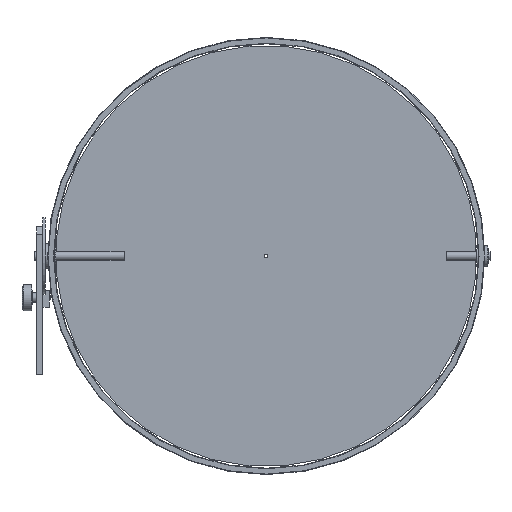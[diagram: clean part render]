
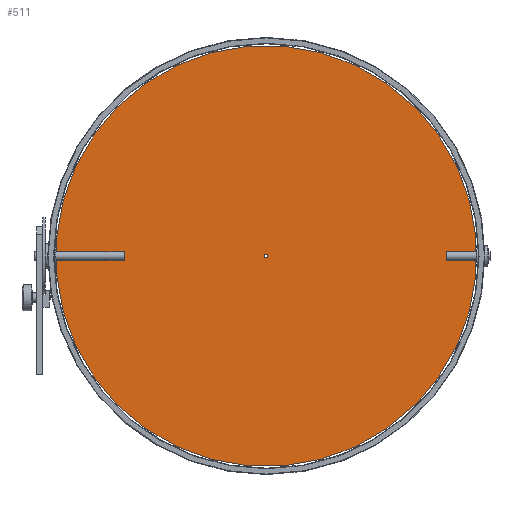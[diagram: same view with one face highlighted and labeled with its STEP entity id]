
A CAD part, left-side view. The second image highlights one B-rep face of the part: STEP entity #511.
In plain terms, the highlighted planar face has unit normal (-1, 0, 0).
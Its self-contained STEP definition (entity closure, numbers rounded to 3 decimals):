
#275=LINE('',#3898,#317);
#280=LINE('',#3912,#322);
#317=VECTOR('',#2438,1.);
#322=VECTOR('',#2451,1.);
#511=ADVANCED_FACE('',(#693,#694,#695,#696,#697,#698,#699,#700,#701),#557,
 .T.);
#557=PLANE('',#2062);
#693=FACE_BOUND('',#899,.T.);
#694=FACE_BOUND('',#900,.T.);
#695=FACE_BOUND('',#901,.T.);
#696=FACE_BOUND('',#902,.T.);
#697=FACE_BOUND('',#903,.T.);
#698=FACE_BOUND('',#904,.T.);
#699=FACE_BOUND('',#905,.T.);
#700=FACE_BOUND('',#906,.T.);
#701=FACE_BOUND('',#907,.T.);
#899=EDGE_LOOP('',(#1295,#1296,#1297,#1298));
#900=EDGE_LOOP('',(#1299));
#901=EDGE_LOOP('',(#1300));
#902=EDGE_LOOP('',(#1301));
#903=EDGE_LOOP('',(#1302));
#904=EDGE_LOOP('',(#1303));
#905=EDGE_LOOP('',(#1304));
#906=EDGE_LOOP('',(#1305));
#907=EDGE_LOOP('',(#1306));
#1295=ORIENTED_EDGE('',*,*,#1720,.T.);
#1296=ORIENTED_EDGE('',*,*,#1697,.T.);
#1297=ORIENTED_EDGE('',*,*,#1701,.T.);
#1298=ORIENTED_EDGE('',*,*,#1704,.T.);
#1299=ORIENTED_EDGE('',*,*,#1717,.T.);
#1300=ORIENTED_EDGE('',*,*,#1715,.F.);
#1301=ORIENTED_EDGE('',*,*,#1713,.F.);
#1302=ORIENTED_EDGE('',*,*,#1711,.F.);
#1303=ORIENTED_EDGE('',*,*,#1709,.F.);
#1304=ORIENTED_EDGE('',*,*,#1707,.F.);
#1305=ORIENTED_EDGE('',*,*,#1705,.F.);
#1306=ORIENTED_EDGE('',*,*,#1721,.T.);
#1492=VERTEX_POINT('',#3897);
#1493=VERTEX_POINT('',#3899);
#1495=VERTEX_POINT('',#3905);
#1497=VERTEX_POINT('',#3911);
#1498=VERTEX_POINT('',#3915);
#1500=VERTEX_POINT('',#3920);
#1502=VERTEX_POINT('',#3925);
#1504=VERTEX_POINT('',#3930);
#1506=VERTEX_POINT('',#3935);
#1508=VERTEX_POINT('',#3940);
#1510=VERTEX_POINT('',#3945);
#1512=VERTEX_POINT('',#3953);
#1697=EDGE_CURVE('',#1493,#1492,#275,.T.);
#1701=EDGE_CURVE('',#1492,#1495,#1837,.T.);
#1704=EDGE_CURVE('',#1495,#1497,#280,.T.);
#1705=EDGE_CURVE('',#1498,#1498,#1838,.T.);
#1707=EDGE_CURVE('',#1500,#1500,#1840,.T.);
#1709=EDGE_CURVE('',#1502,#1502,#1842,.T.);
#1711=EDGE_CURVE('',#1504,#1504,#1844,.T.);
#1713=EDGE_CURVE('',#1506,#1506,#1846,.T.);
#1715=EDGE_CURVE('',#1508,#1508,#1848,.T.);
#1717=EDGE_CURVE('',#1510,#1510,#1850,.T.);
#1720=EDGE_CURVE('',#1497,#1493,#1853,.T.);
#1721=EDGE_CURVE('',#1512,#1512,#1854,.T.);
#1837=CIRCLE('',#2032,496.);
#1838=CIRCLE('',#2035,4.);
#1840=CIRCLE('',#2038,4.);
#1842=CIRCLE('',#2041,4.);
#1844=CIRCLE('',#2044,4.);
#1846=CIRCLE('',#2047,4.);
#1848=CIRCLE('',#2050,4.);
#1850=CIRCLE('',#2053,4.);
#1853=CIRCLE('',#2057,496.);
#1854=CIRCLE('',#2059,4.);
#2032=AXIS2_PLACEMENT_3D('',#3906,#2445,#2446);
#2035=AXIS2_PLACEMENT_3D('',#3914,#2454,#2455);
#2038=AXIS2_PLACEMENT_3D('',#3919,#2460,#2461);
#2041=AXIS2_PLACEMENT_3D('',#3924,#2466,#2467);
#2044=AXIS2_PLACEMENT_3D('',#3929,#2472,#2473);
#2047=AXIS2_PLACEMENT_3D('',#3934,#2478,#2479);
#2050=AXIS2_PLACEMENT_3D('',#3939,#2484,#2485);
#2053=AXIS2_PLACEMENT_3D('',#3944,#2490,#2491);
#2057=AXIS2_PLACEMENT_3D('',#3950,#2498,#2499);
#2059=AXIS2_PLACEMENT_3D('',#3952,#2502,#2503);
#2062=AXIS2_PLACEMENT_3D('',#3957,#2508,#2509);
#2438=DIRECTION('',(0.,0.,1.));
#2445=DIRECTION('',(-1.,0.,0.));
#2446=DIRECTION('',(0.,0.,1.));
#2451=DIRECTION('',(0.,0.,-1.));
#2454=DIRECTION('',(-1.,0.,0.));
#2455=DIRECTION('',(0.,0.,1.));
#2460=DIRECTION('',(-1.,0.,0.));
#2461=DIRECTION('',(0.,0.,1.));
#2466=DIRECTION('',(-1.,0.,0.));
#2467=DIRECTION('',(0.,0.,1.));
#2472=DIRECTION('',(-1.,0.,0.));
#2473=DIRECTION('',(0.,0.,1.));
#2478=DIRECTION('',(-1.,0.,0.));
#2479=DIRECTION('',(0.,0.,1.));
#2484=DIRECTION('',(-1.,0.,0.));
#2485=DIRECTION('',(0.,0.,1.));
#2490=DIRECTION('',(1.,0.,0.));
#2491=DIRECTION('',(0.,0.,1.));
#2498=DIRECTION('',(-1.,0.,0.));
#2499=DIRECTION('',(0.,0.,1.));
#2502=DIRECTION('',(1.,0.,0.));
#2503=DIRECTION('',(0.,0.,1.));
#2508=DIRECTION('',(-1.,0.,0.));
#2509=DIRECTION('',(0.,0.,1.));
#3897=CARTESIAN_POINT('',(-1.2,-603.,169.497));
#3898=CARTESIAN_POINT('',(-1.2,-603.,80.503));
#3899=CARTESIAN_POINT('',(-1.2,-603.,80.503));
#3905=CARTESIAN_POINT('',(-1.2,385.,169.497));
#3906=CARTESIAN_POINT('',(-1.2,-109.,125.));
#3911=CARTESIAN_POINT('',(-1.2,385.,80.503));
#3912=CARTESIAN_POINT('',(-1.2,385.,169.497));
#3914=CARTESIAN_POINT('',(-1.2,-109.,125.));
#3915=CARTESIAN_POINT('',(-1.2,-109.,129.));
#3919=CARTESIAN_POINT('',(-1.2,271.,125.));
#3920=CARTESIAN_POINT('',(-1.2,271.,129.));
#3924=CARTESIAN_POINT('',(-1.2,301.,125.));
#3925=CARTESIAN_POINT('',(-1.2,301.,129.));
#3929=CARTESIAN_POINT('',(-1.2,241.,125.));
#3930=CARTESIAN_POINT('',(-1.2,241.,129.));
#3934=CARTESIAN_POINT('',(-1.2,361.,125.));
#3935=CARTESIAN_POINT('',(-1.2,361.,129.));
#3939=CARTESIAN_POINT('',(-1.2,331.,125.));
#3940=CARTESIAN_POINT('',(-1.2,331.,129.));
#3944=CARTESIAN_POINT('',(-1.2,-579.,125.));
#3945=CARTESIAN_POINT('',(-1.2,-579.,129.));
#3950=CARTESIAN_POINT('',(-1.2,-109.,125.));
#3952=CARTESIAN_POINT('',(-1.2,-549.,125.));
#3953=CARTESIAN_POINT('',(-1.2,-549.,129.));
#3957=CARTESIAN_POINT('',(-1.2,-109.,125.));
